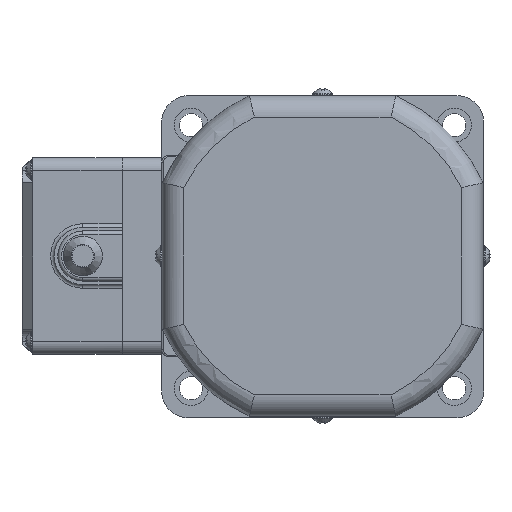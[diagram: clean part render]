
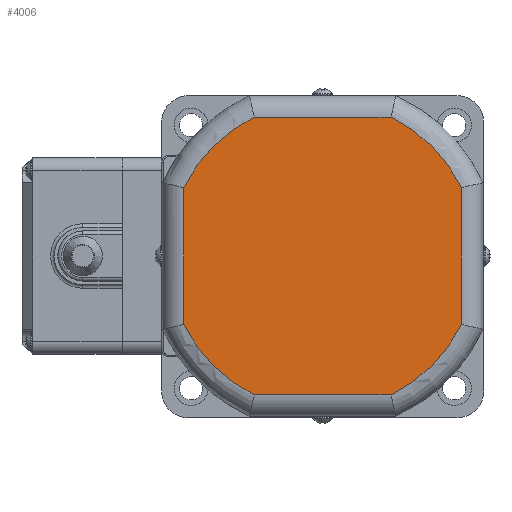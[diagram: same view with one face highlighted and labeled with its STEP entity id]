
A CAD part, left-side view. The second image highlights one B-rep face of the part: STEP entity #4006.
In plain terms, the highlighted planar face has unit normal (-1, 0, 0) as drawn and (0, 0, -1) by its records, which use the part's own axes.
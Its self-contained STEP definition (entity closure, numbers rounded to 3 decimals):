
#3339=CARTESIAN_POINT('',(38.8,-19.108,0.0));
#3340=VERTEX_POINT('',#3339);
#3367=CARTESIAN_POINT('',(19.108,-38.8,0.0));
#3368=VERTEX_POINT('',#3367);
#3386=CARTESIAN_POINT('',(0.0,0.0,0.0));
#3387=DIRECTION('',(0.0,0.0,1.0));
#3388=DIRECTION('',(0.707,-0.707,0.0));
#3389=AXIS2_PLACEMENT_3D('',#3386,#3387,#3388);
#3390=CIRCLE('',#3389,43.25);
#3391=EDGE_CURVE('',#3368,#3340,#3390,.T.);
#3403=CARTESIAN_POINT('',(-19.108,-38.8,0.0));
#3404=VERTEX_POINT('',#3403);
#3422=CARTESIAN_POINT('',(-19.108,-38.8,0.0));
#3423=DIRECTION('',(1.0,0.0,0.0));
#3424=VECTOR('',#3423,38.216);
#3425=LINE('',#3422,#3424);
#3426=EDGE_CURVE('',#3404,#3368,#3425,.T.);
#3445=CARTESIAN_POINT('',(38.8,19.108,0.0));
#3446=VERTEX_POINT('',#3445);
#3471=CARTESIAN_POINT('',(38.8,-19.108,0.0));
#3472=DIRECTION('',(0.0,1.0,0.0));
#3473=VECTOR('',#3472,38.216);
#3474=LINE('',#3471,#3473);
#3475=EDGE_CURVE('',#3340,#3446,#3474,.T.);
#3487=CARTESIAN_POINT('',(-38.8,-19.108,0.0));
#3488=VERTEX_POINT('',#3487);
#3506=CARTESIAN_POINT('',(0.0,0.0,0.0));
#3507=DIRECTION('',(0.0,0.0,1.0));
#3508=DIRECTION('',(-0.707,-0.707,0.0));
#3509=AXIS2_PLACEMENT_3D('',#3506,#3507,#3508);
#3510=CIRCLE('',#3509,43.25);
#3511=EDGE_CURVE('',#3488,#3404,#3510,.T.);
#3531=CARTESIAN_POINT('',(19.108,38.8,0.0));
#3532=VERTEX_POINT('',#3531);
#3558=CARTESIAN_POINT('',(0.0,0.0,0.0));
#3559=DIRECTION('',(0.0,0.0,1.0));
#3560=DIRECTION('',(0.707,0.707,0.0));
#3561=AXIS2_PLACEMENT_3D('',#3558,#3559,#3560);
#3562=CIRCLE('',#3561,43.25);
#3563=EDGE_CURVE('',#3446,#3532,#3562,.T.);
#3575=CARTESIAN_POINT('',(-38.8,19.108,0.0));
#3576=VERTEX_POINT('',#3575);
#3594=CARTESIAN_POINT('',(-38.8,19.108,0.0));
#3595=DIRECTION('',(0.0,-1.0,0.0));
#3596=VECTOR('',#3595,38.216);
#3597=LINE('',#3594,#3596);
#3598=EDGE_CURVE('',#3576,#3488,#3597,.T.);
#3615=CARTESIAN_POINT('',(-19.108,38.8,0.0));
#3616=VERTEX_POINT('',#3615);
#3643=CARTESIAN_POINT('',(19.108,38.8,0.0));
#3644=DIRECTION('',(-1.0,0.0,0.0));
#3645=VECTOR('',#3644,38.216);
#3646=LINE('',#3643,#3645);
#3647=EDGE_CURVE('',#3532,#3616,#3646,.T.);
#3658=CARTESIAN_POINT('',(0.0,0.0,0.0));
#3659=DIRECTION('',(0.0,0.0,1.0));
#3660=DIRECTION('',(-0.707,0.707,0.0));
#3661=AXIS2_PLACEMENT_3D('',#3658,#3659,#3660);
#3662=CIRCLE('',#3661,43.25);
#3663=EDGE_CURVE('',#3616,#3576,#3662,.T.);
#3991=CARTESIAN_POINT('',(0.,0.0,0.0));
#3992=DIRECTION('',(0.0,0.0,1.0));
#3993=DIRECTION('',(1.0,0.0,0.0));
#3994=AXIS2_PLACEMENT_3D('',#3991,#3992,#3993);
#3995=PLANE('',#3994);
#3996=ORIENTED_EDGE('',*,*,#3647,.F.);
#3997=ORIENTED_EDGE('',*,*,#3563,.F.);
#3998=ORIENTED_EDGE('',*,*,#3475,.F.);
#3999=ORIENTED_EDGE('',*,*,#3391,.F.);
#4000=ORIENTED_EDGE('',*,*,#3426,.F.);
#4001=ORIENTED_EDGE('',*,*,#3511,.F.);
#4002=ORIENTED_EDGE('',*,*,#3598,.F.);
#4003=ORIENTED_EDGE('',*,*,#3663,.F.);
#4004=EDGE_LOOP('',(#3996,#3997,#3998,#3999,#4000,#4001,#4002,#4003));
#4005=FACE_OUTER_BOUND('',#4004,.T.);
#4006=ADVANCED_FACE('',(#4005),#3995,.F.);
